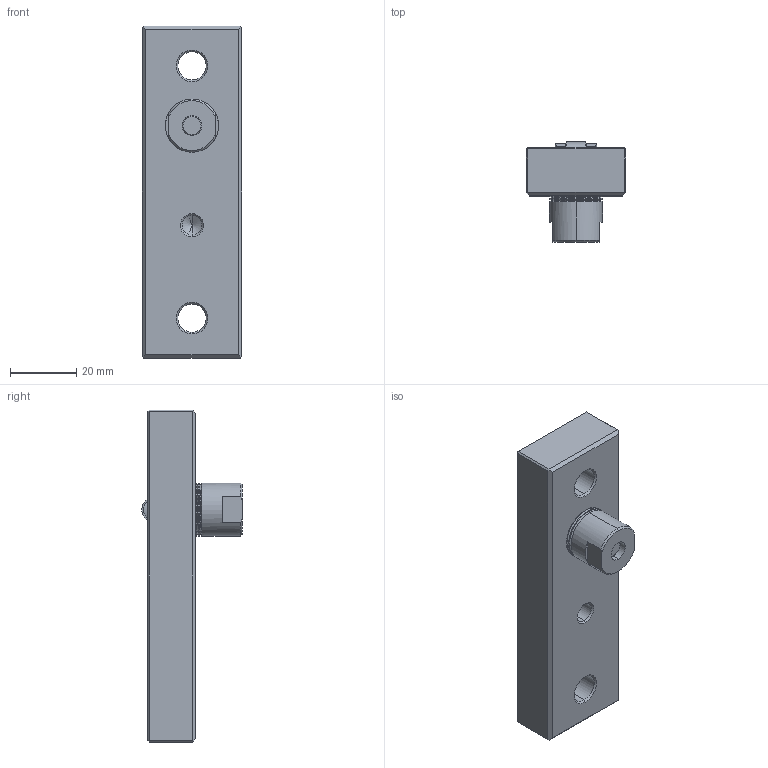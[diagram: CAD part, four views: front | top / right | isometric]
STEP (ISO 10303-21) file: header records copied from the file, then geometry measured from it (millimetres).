
FILE_DESCRIPTION (( 'STEP AP203' ), '1' );
FILE_NAME ('PRI30100.STEP', '2010-07-09T14:15:37', ( ' ' ), ( ' ' ), 'SwSTEP 2.0', 'SolidWorks 2005204', '' );
FILE_SCHEMA (( 'CONFIG_CONTROL_DESIGN' ));
Length unit declared in the file: millimetre
Products named in the file (8): PRI30100; MOLLA-RR30; SPINA 4X12; PERNO RULLINO8; RITENSORE 30; CORPO RITENSORE8; RULLINO8
Assembly tree (7 placements, depth 3):
  PRI30100
    RITENSORE 30
      SPINA 4X12
      CORPO RITENSORE8
      PERNO RULLINO8
      RULLINO8
      MOLLA-RR30
    PRI30100
Bounding box: 30 x 30.19 x 100 mm (x, y, z)
Volume: 41717.3 mm3; surface area: 15325.5 mm2
Topology: 6 solids, 6 shells, 172 faces, 382 edges, 226 vertices
Faces by surface type: cylinder 63, cone 53, plane 52, torus 2, bspline 2
Entity records: 6978 total; most frequent: CARTESIAN_POINT 2252, DIRECTION 882, ORIENTED_EDGE 758, EDGE_CURVE 379, AXIS2_PLACEMENT_3D 344, VERTEX_POINT 226, VECTOR 194, LINE 194
